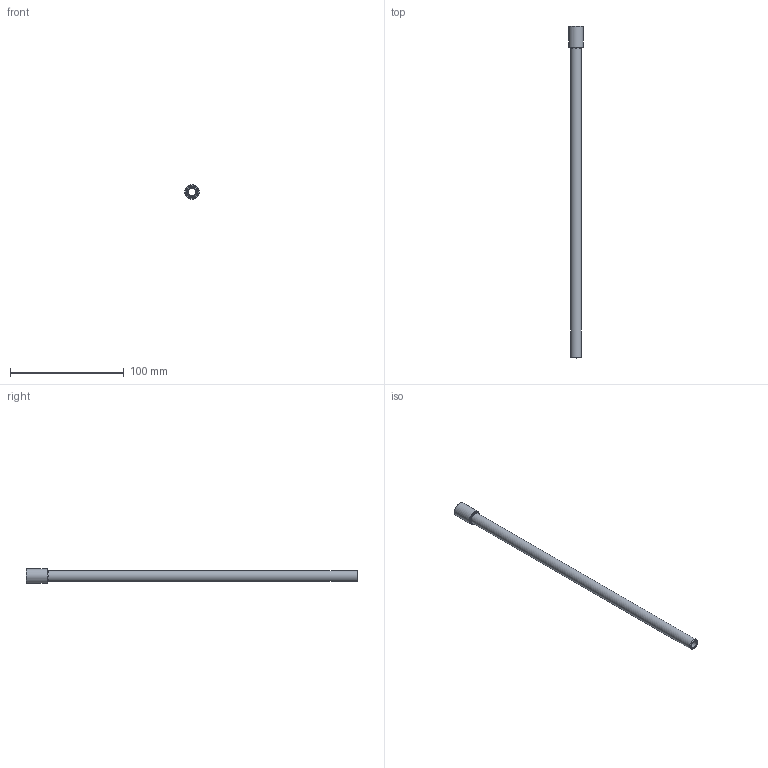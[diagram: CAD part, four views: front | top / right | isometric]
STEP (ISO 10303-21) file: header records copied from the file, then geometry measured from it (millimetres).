
FILE_DESCRIPTION(/* description */ (''),/* implementation_level */ '2;1');
FILE_NAME(/* name */ 'C:/Users/drich/Desktop/EP18X11-1_2 v1.step',/* time_stamp */ '2019-11-18T15:04:53-06:00',/* author */ (''),/* organization */ (''),/* preprocessor_version */ 'ST-DEVELOPER v18',/* originating_system */ 'Autodesk Translation Framework v8.12.0.6',/* authorisation */ '');
FILE_SCHEMA (('AUTOMOTIVE_DESIGN { 1 0 10303 214 3 1 1 }'));
Length unit declared in the file: inch
Products named in the file (2): EP18X11-1_2; EP18X4
Assembly tree (1 placements, depth 2):
  EP18X11-1_2
    EP18X4
Bounding box: 12.7 x 292.1 x 12.7 mm (x, y, z)
Volume: 12650.1 mm3; surface area: 15083.2 mm2
Topology: 1 solids, 1 shells, 23 faces, 55 edges, 37 vertices
Faces by surface type: plane 11, cone 7, cylinder 5
Full cylindrical faces by diameter (mm): 6.35 x1, 7.62 x1, 8.707 x1, 9.621 x1, 12.7 x1
Entity records: 740 total; most frequent: CARTESIAN_POINT 132, DIRECTION 124, ORIENTED_EDGE 110, EDGE_CURVE 55, AXIS2_PLACEMENT_3D 50, VERTEX_POINT 37, EDGE_LOOP 28, LINE 24
